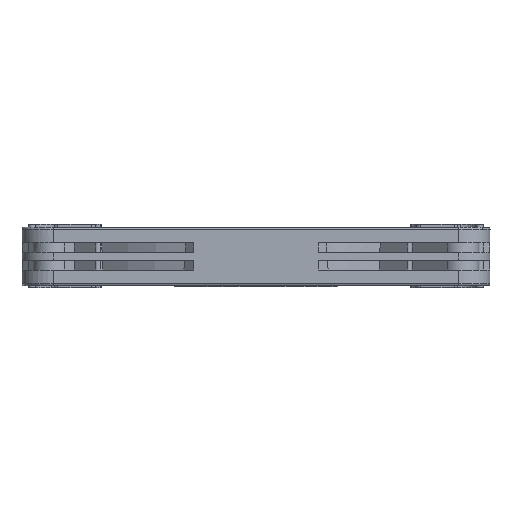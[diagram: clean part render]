
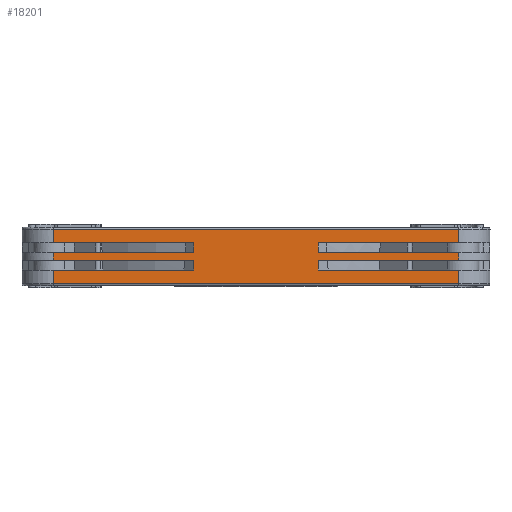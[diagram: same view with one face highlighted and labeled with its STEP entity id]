
A CAD part, left-side view. The second image highlights one B-rep face of the part: STEP entity #18201.
In plain terms, the highlighted planar face has unit normal (-1, 0, 0).
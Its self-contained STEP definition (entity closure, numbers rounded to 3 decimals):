
#4385=ORIENTED_EDGE('',*,*,#8979,.F.);
#4386=ORIENTED_EDGE('',*,*,#8971,.F.);
#4387=ORIENTED_EDGE('',*,*,#8984,.F.);
#4388=ORIENTED_EDGE('',*,*,#8987,.F.);
#4389=ORIENTED_EDGE('',*,*,#8989,.F.);
#4390=ORIENTED_EDGE('',*,*,#8968,.F.);
#4391=ORIENTED_EDGE('',*,*,#8994,.F.);
#4392=ORIENTED_EDGE('',*,*,#9436,.T.);
#4393=ORIENTED_EDGE('',*,*,#9437,.T.);
#4394=ORIENTED_EDGE('',*,*,#9434,.F.);
#4395=ORIENTED_EDGE('',*,*,#9438,.F.);
#4396=ORIENTED_EDGE('',*,*,#9100,.F.);
#4397=ORIENTED_EDGE('',*,*,#9075,.F.);
#4398=ORIENTED_EDGE('',*,*,#8967,.F.);
#4399=ORIENTED_EDGE('',*,*,#9082,.F.);
#4400=ORIENTED_EDGE('',*,*,#8962,.F.);
#4401=ORIENTED_EDGE('',*,*,#9093,.F.);
#4402=ORIENTED_EDGE('',*,*,#8961,.F.);
#4403=ORIENTED_EDGE('',*,*,#9197,.F.);
#4404=ORIENTED_EDGE('',*,*,#8975,.F.);
#8961=EDGE_CURVE('',#11682,#11681,#13143,.T.);
#8962=EDGE_CURVE('',#11683,#11684,#13144,.T.);
#8967=EDGE_CURVE('',#11686,#11685,#13146,.T.);
#8968=EDGE_CURVE('',#11687,#11688,#13147,.T.);
#8971=EDGE_CURVE('',#11689,#11690,#13149,.T.);
#8975=EDGE_CURVE('',#11691,#11692,#13151,.T.);
#8979=EDGE_CURVE('',#11690,#11691,#13152,.T.);
#8984=EDGE_CURVE('',#11693,#11689,#13155,.T.);
#8987=EDGE_CURVE('',#11694,#11693,#13156,.T.);
#8989=EDGE_CURVE('',#11688,#11694,#13157,.T.);
#8994=EDGE_CURVE('',#11695,#11687,#13159,.T.);
#9075=EDGE_CURVE('',#11685,#11743,#13204,.T.);
#9082=EDGE_CURVE('',#11684,#11686,#13208,.T.);
#9093=EDGE_CURVE('',#11681,#11683,#13215,.T.);
#9100=EDGE_CURVE('',#11743,#11753,#13218,.T.);
#9197=EDGE_CURVE('',#11692,#11682,#13259,.T.);
#9434=EDGE_CURVE('',#11948,#11949,#13381,.T.);
#9436=EDGE_CURVE('',#11695,#11950,#13382,.T.);
#9437=EDGE_CURVE('',#11950,#11949,#13383,.T.);
#9438=EDGE_CURVE('',#11753,#11948,#13384,.T.);
#11681=VERTEX_POINT('',#29595);
#11682=VERTEX_POINT('',#29597);
#11683=VERTEX_POINT('',#29601);
#11684=VERTEX_POINT('',#29602);
#11685=VERTEX_POINT('',#29614);
#11686=VERTEX_POINT('',#29622);
#11687=VERTEX_POINT('',#29626);
#11688=VERTEX_POINT('',#29627);
#11689=VERTEX_POINT('',#29635);
#11690=VERTEX_POINT('',#29636);
#11691=VERTEX_POINT('',#29648);
#11692=VERTEX_POINT('',#29650);
#11693=VERTEX_POINT('',#29684);
#11694=VERTEX_POINT('',#29697);
#11695=VERTEX_POINT('',#29721);
#11743=VERTEX_POINT('',#29993);
#11753=VERTEX_POINT('',#30070);
#11948=VERTEX_POINT('',#31207);
#11949=VERTEX_POINT('',#31209);
#11950=VERTEX_POINT('',#31213);
#13143=LINE('',#29598,#14279);
#13144=LINE('',#29600,#14280);
#13146=LINE('',#29623,#14282);
#13147=LINE('',#29625,#14283);
#13149=LINE('',#29634,#14285);
#13151=LINE('',#29649,#14287);
#13152=LINE('',#29665,#14288);
#13155=LINE('',#29685,#14291);
#13156=LINE('',#29698,#14292);
#13157=LINE('',#29705,#14293);
#13159=LINE('',#29722,#14295);
#13204=LINE('',#29992,#14340);
#13208=LINE('',#30016,#14344);
#13215=LINE('',#30046,#14351);
#13218=LINE('',#30069,#14354);
#13259=LINE('',#30419,#14395);
#13381=LINE('',#31208,#14517);
#13382=LINE('',#31212,#14518);
#13383=LINE('',#31214,#14519);
#13384=LINE('',#31215,#14520);
#14279=VECTOR('',#21818,1000.);
#14280=VECTOR('',#21821,1000.);
#14282=VECTOR('',#21825,1000.);
#14283=VECTOR('',#21828,1000.);
#14285=VECTOR('',#21832,1000.);
#14287=VECTOR('',#21836,1000.);
#14288=VECTOR('',#21841,1000.);
#14291=VECTOR('',#21848,1000.);
#14292=VECTOR('',#21851,1000.);
#14293=VECTOR('',#21854,1000.);
#14295=VECTOR('',#21862,1000.);
#14340=VECTOR('',#21959,1000.);
#14344=VECTOR('',#21967,1000.);
#14351=VECTOR('',#21978,1000.);
#14354=VECTOR('',#21989,1000.);
#14395=VECTOR('',#22116,1000.);
#14517=VECTOR('',#22578,1000.);
#14518=VECTOR('',#22583,1000.);
#14519=VECTOR('',#22584,1000.);
#14520=VECTOR('',#22585,1000.);
#15515=EDGE_LOOP('',(#4385,#4386,#4387,#4388,#4389,#4390,#4391,#4392,#4393,
#4394,#4395,#4396,#4397,#4398,#4399,#4400,#4401,#4402,#4403,#4404));
#16667=FACE_BOUND('',#15515,.T.);
#17618=PLANE('',#19938);
#18201=ADVANCED_FACE('',(#16667),#17618,.F.);
#19938=AXIS2_PLACEMENT_3D('',#31211,#22581,#22582);
#21818=DIRECTION('',(0.,0.,-1.));
#21821=DIRECTION('',(0.,0.,-1.));
#21825=DIRECTION('',(0.,0.,-1.));
#21828=DIRECTION('',(0.,0.,1.));
#21832=DIRECTION('',(0.,0.,1.));
#21836=DIRECTION('',(0.,0.,1.));
#21841=DIRECTION('',(0.,1.,0.));
#21848=DIRECTION('',(0.,-1.,0.));
#21851=DIRECTION('',(0.,0.,1.));
#21854=DIRECTION('',(0.,1.,0.));
#21862=DIRECTION('',(0.,-1.,0.));
#21959=DIRECTION('',(0.,1.,0.));
#21967=DIRECTION('',(0.,-1.,0.));
#21978=DIRECTION('',(0.,1.,0.));
#21989=DIRECTION('',(0.,0.,-1.));
#22116=DIRECTION('',(0.,-1.,0.));
#22578=DIRECTION('',(0.,0.,-1.));
#22581=DIRECTION('',(1.,0.,0.));
#22582=DIRECTION('',(0.,1.,0.));
#22583=DIRECTION('',(0.,0.,-1.));
#22584=DIRECTION('',(0.,-1.,0.));
#22585=DIRECTION('',(0.,-1.,0.));
#29595=CARTESIAN_POINT('',(-60.,-51.985,11.));
#29597=CARTESIAN_POINT('',(-60.,-51.985,14.5));
#29598=CARTESIAN_POINT('',(-60.,-51.985,7.5));
#29600=CARTESIAN_POINT('',(-60.,-15.985,7.5));
#29601=CARTESIAN_POINT('',(-60.,-15.985,11.));
#29602=CARTESIAN_POINT('',(-60.,-15.985,8.5));
#29614=CARTESIAN_POINT('',(-60.,-51.985,6.5));
#29622=CARTESIAN_POINT('',(-60.,-51.985,8.5));
#29623=CARTESIAN_POINT('',(-60.,-51.985,7.5));
#29625=CARTESIAN_POINT('',(-60.,16.015,7.5));
#29626=CARTESIAN_POINT('',(-60.,16.015,4.));
#29627=CARTESIAN_POINT('',(-60.,16.015,6.5));
#29634=CARTESIAN_POINT('',(-60.,16.015,7.5));
#29635=CARTESIAN_POINT('',(-60.,16.015,8.5));
#29636=CARTESIAN_POINT('',(-60.,16.015,11.));
#29648=CARTESIAN_POINT('',(-60.,52.015,11.));
#29649=CARTESIAN_POINT('',(-60.,52.015,7.5));
#29650=CARTESIAN_POINT('',(-60.,52.015,14.5));
#29665=CARTESIAN_POINT('',(-60.,0.015,11.));
#29684=CARTESIAN_POINT('',(-60.,52.015,8.5));
#29685=CARTESIAN_POINT('',(-60.,0.015,8.5));
#29697=CARTESIAN_POINT('',(-60.,52.015,6.5));
#29698=CARTESIAN_POINT('',(-60.,52.015,7.5));
#29705=CARTESIAN_POINT('',(-60.,0.015,6.5));
#29721=CARTESIAN_POINT('',(-60.,52.015,4.));
#29722=CARTESIAN_POINT('',(-60.,0.015,4.));
#29992=CARTESIAN_POINT('',(-60.,0.015,6.5));
#29993=CARTESIAN_POINT('',(-60.,-15.985,6.5));
#30016=CARTESIAN_POINT('',(-60.,0.015,8.5));
#30046=CARTESIAN_POINT('',(-60.,0.015,11.));
#30069=CARTESIAN_POINT('',(-60.,-15.985,7.5));
#30070=CARTESIAN_POINT('',(-60.,-15.985,4.));
#30419=CARTESIAN_POINT('',(-60.,0.015,14.5));
#31207=CARTESIAN_POINT('',(-60.,-51.985,4.));
#31208=CARTESIAN_POINT('',(-60.,-51.985,7.5));
#31209=CARTESIAN_POINT('',(-60.,-51.985,0.5));
#31211=CARTESIAN_POINT('',(-60.,-54.065,-0.021));
#31212=CARTESIAN_POINT('',(-60.,52.015,7.5));
#31213=CARTESIAN_POINT('',(-60.,52.015,0.5));
#31214=CARTESIAN_POINT('',(-60.,0.015,0.5));
#31215=CARTESIAN_POINT('',(-60.,-15.985,4.));
